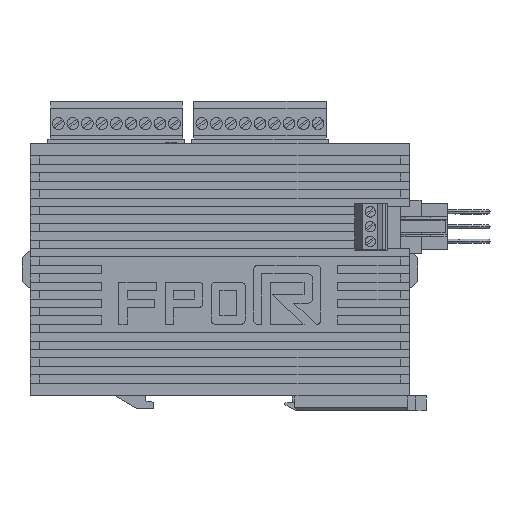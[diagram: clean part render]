
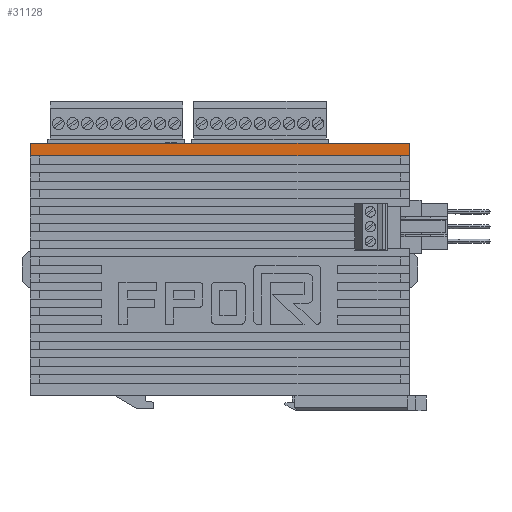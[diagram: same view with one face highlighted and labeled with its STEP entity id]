
A CAD part, left-side view. The second image highlights one B-rep face of the part: STEP entity #31128.
In plain terms, the highlighted planar face has unit normal (-1, 0, 0).
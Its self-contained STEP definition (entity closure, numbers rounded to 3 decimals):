
#9193 = CARTESIAN_POINT ( 'NONE',  ( -12.5, -45., 57. ) ) ;
#9194 = DIRECTION ( 'NONE',  ( 0., 0., -1. ) ) ;
#9195 = VECTOR ( 'NONE', #9194, 1000. ) ;
#9196 = CARTESIAN_POINT ( 'NONE',  ( -12.5, -45., 60. ) ) ;
#9197 = LINE ( 'NONE', #9196, #9195 ) ;
#9198 = CARTESIAN_POINT ( 'NONE',  ( -12.5, -45., 60. ) ) ;
#22278 = VERTEX_POINT ( 'NONE', #9198 ) ;
#22280 = EDGE_CURVE ( 'NONE', #22278, #22282, #9197, .T. ) ;
#22282 = VERTEX_POINT ( 'NONE', #9193 ) ;
#30679 = VERTEX_POINT ( 'NONE', #38530 ) ;
#30682 = EDGE_CURVE ( 'NONE', #30683, #30679, #38648, .T. ) ;
#30683 = VERTEX_POINT ( 'NONE', #38643 ) ;
#31128 = ADVANCED_FACE ( 'NONE', ( #39365 ), #39453, .F. ) ;
#31129 = EDGE_LOOP ( 'NONE', ( #31131, #31132, #31135, #31136 ) ) ;
#31131 = ORIENTED_EDGE ( 'NONE', *, *, #30682, .T. ) ;
#31132 = ORIENTED_EDGE ( 'NONE', *, *, #31134, .F. ) ;
#31134 = EDGE_CURVE ( 'NONE', #22282, #30679, #39445, .T. ) ;
#31135 = ORIENTED_EDGE ( 'NONE', *, *, #22280, .F. ) ;
#31136 = ORIENTED_EDGE ( 'NONE', *, *, #31138, .F. ) ;
#31138 = EDGE_CURVE ( 'NONE', #30683, #22278, #39541, .T. ) ;
#38530 = CARTESIAN_POINT ( 'NONE',  ( -12.5, 45., 57. ) ) ;
#38643 = CARTESIAN_POINT ( 'NONE',  ( -12.5, 45., 60. ) ) ;
#38644 = DIRECTION ( 'NONE',  ( 0., 0., -1. ) ) ;
#38645 = VECTOR ( 'NONE', #38644, 1000. ) ;
#38646 = CARTESIAN_POINT ( 'NONE',  ( -12.5, 45., 60. ) ) ;
#38648 = LINE ( 'NONE', #38646, #38645 ) ;
#39365 = FACE_OUTER_BOUND ( 'NONE', #31129, .T. ) ;
#39439 = DIRECTION ( 'NONE',  ( 0., 1., 0. ) ) ;
#39441 = VECTOR ( 'NONE', #39439, 1000. ) ;
#39444 = CARTESIAN_POINT ( 'NONE',  ( -12.5, 45., 57. ) ) ;
#39445 = LINE ( 'NONE', #39444, #39441 ) ;
#39448 = DIRECTION ( 'NONE',  ( 0., 1., 0. ) ) ;
#39449 = DIRECTION ( 'NONE',  ( 1., 0., 0. ) ) ;
#39450 = CARTESIAN_POINT ( 'NONE',  ( -12.5, 45., 60. ) ) ;
#39452 = AXIS2_PLACEMENT_3D ( 'NONE', #39450, #39449, #39448 ) ;
#39453 = PLANE ( 'NONE',  #39452 ) ;
#39537 = DIRECTION ( 'NONE',  ( 0., -1., 0. ) ) ;
#39538 = VECTOR ( 'NONE', #39537, 1000. ) ;
#39539 = CARTESIAN_POINT ( 'NONE',  ( -12.5, 45., 60. ) ) ;
#39541 = LINE ( 'NONE', #39539, #39538 ) ;
